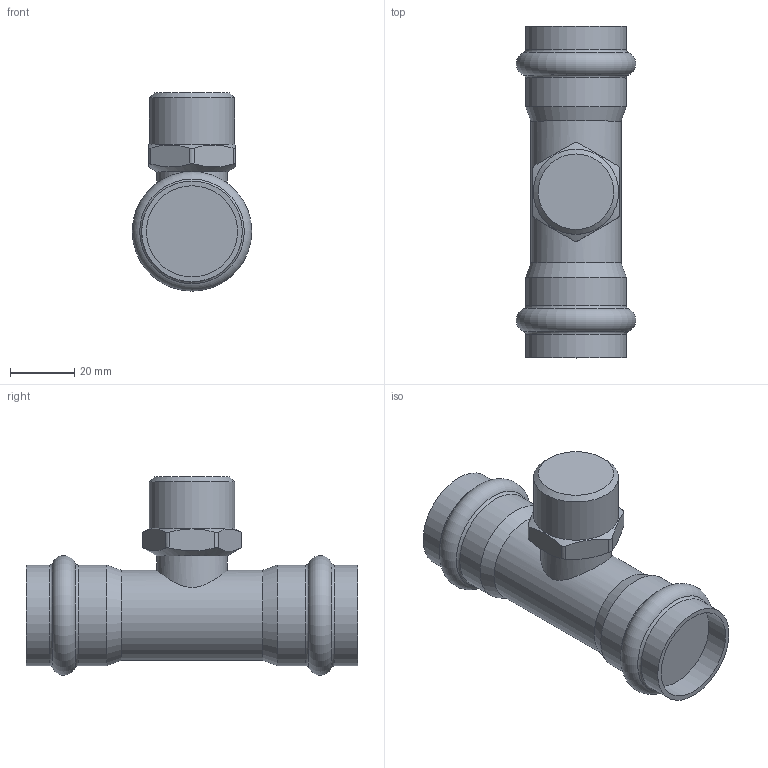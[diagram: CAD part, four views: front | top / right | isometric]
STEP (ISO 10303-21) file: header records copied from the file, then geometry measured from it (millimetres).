
FILE_DESCRIPTION(('STEP AP203'), '1');
FILE_NAME('VTi.933.I.280528', '', ('UNSPECIFIED'), ('UNSPECIFIED'), 'C3D Converter', 'C3D Toolkit', '');
FILE_SCHEMA(('CONFIG_CONTROL_DESIGN'));
Length unit declared in the file: millimetre
Bounding box: 37.1 x 103 x 61.55 mm (x, y, z)
Volume: 81890.7 mm3; surface area: 16025.5 mm2
Topology: 1 solids, 1 shells, 37 faces, 84 edges, 51 vertices
Faces by surface type: cylinder 15, plane 11, torus 6, cone 5
Full cylindrical faces by diameter (mm): 22 x1, 26.441 x1, 28 x1, 28.3 x2, 31.26 x4
Entity records: 2103 total; most frequent: CARTESIAN_POINT 1355, DIRECTION 134, ORIENTED_EDGE 126, EDGE_CURVE 63, AXIS2_PLACEMENT_3D 61, EDGE_LOOP 60, VERTEX_POINT 51, ADVANCED_FACE 37
